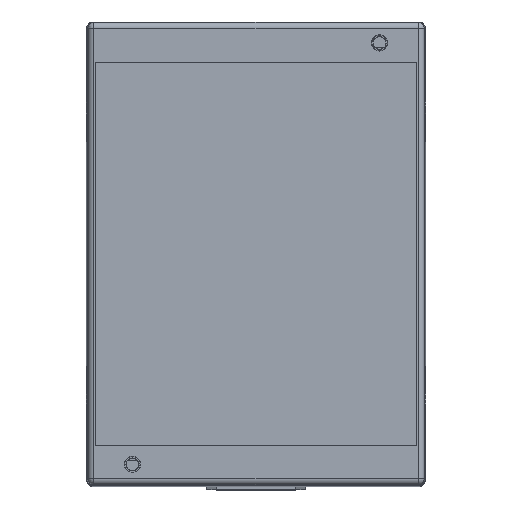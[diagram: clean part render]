
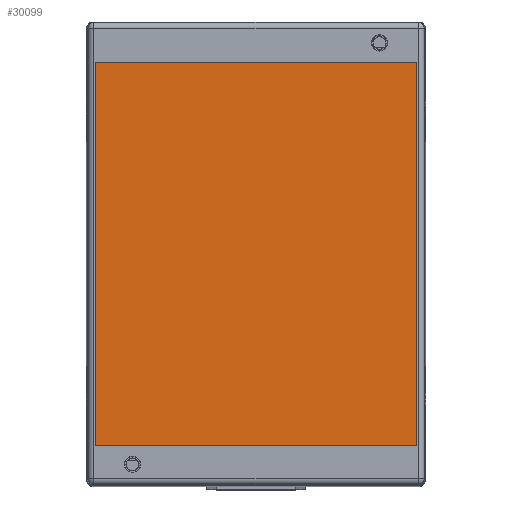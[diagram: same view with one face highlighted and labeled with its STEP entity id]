
A CAD part, top view. The second image highlights one B-rep face of the part: STEP entity #30099.
In plain terms, the highlighted planar face has unit normal (0, 0, 1) as drawn and (0, 0, -1) by its records, which use the part's own axes.
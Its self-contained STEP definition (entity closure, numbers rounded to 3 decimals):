
#911=PLANE('',#32351);
#2908=FACE_OUTER_BOUND('',#4610,.T.);
#4610=EDGE_LOOP('',(#26054,#26055,#26056,#26057));
#7609=LINE('',#47805,#11010);
#7610=LINE('',#47808,#11011);
#7611=LINE('',#47810,#11012);
#7612=LINE('',#47811,#11013);
#11010=VECTOR('',#38812,5.2);
#11011=VECTOR('',#38815,6.2);
#11012=VECTOR('',#38816,6.2);
#11013=VECTOR('',#38817,5.2);
#14791=VERTEX_POINT('',#47801);
#14792=VERTEX_POINT('',#47803);
#14793=VERTEX_POINT('',#47807);
#14794=VERTEX_POINT('',#47809);
#18694=EDGE_CURVE('',#14792,#14791,#7609,.T.);
#18695=EDGE_CURVE('',#14791,#14793,#7610,.T.);
#18696=EDGE_CURVE('',#14794,#14792,#7611,.T.);
#18697=EDGE_CURVE('',#14794,#14793,#7612,.T.);
#26054=ORIENTED_EDGE('',*,*,#18695,.F.);
#26055=ORIENTED_EDGE('',*,*,#18694,.F.);
#26056=ORIENTED_EDGE('',*,*,#18696,.F.);
#26057=ORIENTED_EDGE('',*,*,#18697,.T.);
#30099=ADVANCED_FACE('',(#2908),#911,.F.);
#32351=AXIS2_PLACEMENT_3D('',#47806,#38813,#38814);
#38812=DIRECTION('',(-1.,0.,0.));
#38813=DIRECTION('center_axis',(0.,0.,1.));
#38814=DIRECTION('ref_axis',(1.,0.,0.));
#38815=DIRECTION('',(0.,-1.,0.));
#38816=DIRECTION('',(0.,1.,0.));
#38817=DIRECTION('',(-1.,0.,0.));
#47801=CARTESIAN_POINT('',(42.641,7.96,0.1));
#47803=CARTESIAN_POINT('',(47.841,7.96,0.1));
#47805=CARTESIAN_POINT('',(47.841,7.96,0.1));
#47806=CARTESIAN_POINT('Origin',(45.241,7.96,0.1));
#47807=CARTESIAN_POINT('',(42.641,1.76,0.1));
#47808=CARTESIAN_POINT('',(42.641,7.96,0.1));
#47809=CARTESIAN_POINT('',(47.841,1.76,0.1));
#47810=CARTESIAN_POINT('',(47.841,1.76,0.1));
#47811=CARTESIAN_POINT('',(47.841,1.76,0.1));
